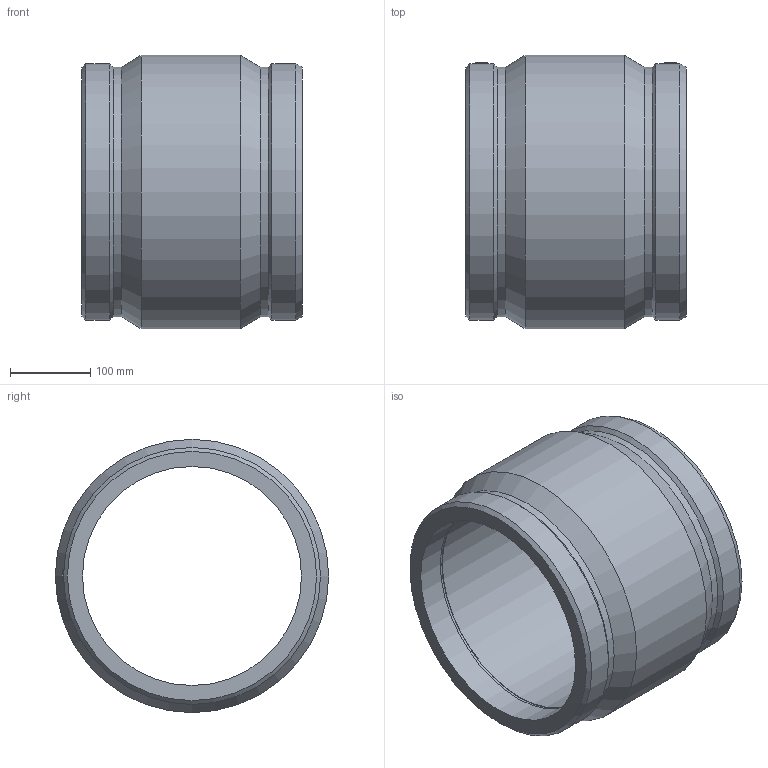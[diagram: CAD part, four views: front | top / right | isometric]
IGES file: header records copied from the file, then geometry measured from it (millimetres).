
Global section: file name: (_AS)5901B004100.ipt; native system: Autodesk Inventor 2019; preprocessor: unknown; author: KIM; date: 20210830.100843; units: inch
Bounding box: 274.32 x 340.36 x 340.36 mm (x, y, z)
Volume: 7327498.2 mm3; surface area: 571598.5 mm2
Topology: 1 solids, 1 shells, 32 faces, 70 edges, 46 vertices
Faces by surface type: plane 10, cone 8, cylinder 7, revolution 7
Full cylindrical faces by diameter (mm): 4 x2, 310.34 x2, 319.938 x2, 340.36 x1
